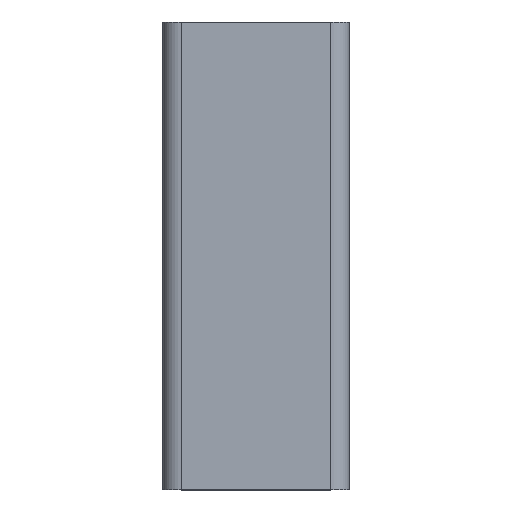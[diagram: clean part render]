
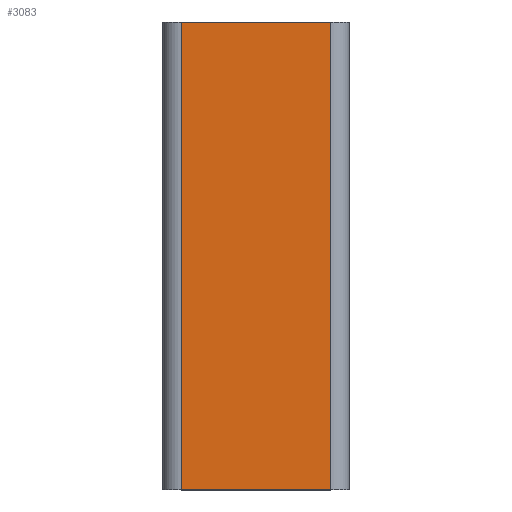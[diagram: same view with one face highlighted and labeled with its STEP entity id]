
A CAD part, top view. The second image highlights one B-rep face of the part: STEP entity #3083.
In plain terms, the highlighted planar face has unit normal (0, 0, 1).
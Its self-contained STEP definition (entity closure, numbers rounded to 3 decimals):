
#70 = AXIS2_PLACEMENT_3D ( 'NONE', #2069, #923, #4051 ) ;
#155 = LINE ( 'NONE', #592, #3243 ) ;
#399 = LINE ( 'NONE', #423, #2223 ) ;
#423 = CARTESIAN_POINT ( 'NONE',  ( -16., 50., 20. ) ) ;
#506 = CARTESIAN_POINT ( 'NONE',  ( 16., 50., 20. ) ) ;
#583 = VECTOR ( 'NONE', #3585, 1000. ) ;
#592 = CARTESIAN_POINT ( 'NONE',  ( -16., -50., 20. ) ) ;
#908 = LINE ( 'NONE', #506, #583 ) ;
#923 = DIRECTION ( 'NONE',  ( 0., 0., -1. ) ) ;
#973 = VERTEX_POINT ( 'NONE', #4738 ) ;
#987 = DIRECTION ( 'NONE',  ( 1., 0., 0. ) ) ;
#1080 = EDGE_CURVE ( 'NONE', #2732, #973, #155, .T. ) ;
#1161 = VECTOR ( 'NONE', #987, 1000. ) ;
#1870 = EDGE_LOOP ( 'NONE', ( #2186, #1905, #4703, #3402 ) ) ;
#1905 = ORIENTED_EDGE ( 'NONE', *, *, #2237, .F. ) ;
#2069 = CARTESIAN_POINT ( 'NONE',  ( -16., 50., 20. ) ) ;
#2186 = ORIENTED_EDGE ( 'NONE', *, *, #1080, .T. ) ;
#2223 = VECTOR ( 'NONE', #4015, 1000. ) ;
#2237 = EDGE_CURVE ( 'NONE', #3005, #973, #908, .T. ) ;
#2455 = PLANE ( 'NONE',  #70 ) ;
#2467 = VERTEX_POINT ( 'NONE', #3059 ) ;
#2732 = VERTEX_POINT ( 'NONE', #4063 ) ;
#2907 = EDGE_CURVE ( 'NONE', #2467, #3005, #4900, .T. ) ;
#2957 = CARTESIAN_POINT ( 'NONE',  ( -16., 50., 20. ) ) ;
#3005 = VERTEX_POINT ( 'NONE', #4223 ) ;
#3059 = CARTESIAN_POINT ( 'NONE',  ( -16., 50., 20. ) ) ;
#3083 = ADVANCED_FACE ( 'NONE', ( #4344 ), #2455, .F. ) ;
#3243 = VECTOR ( 'NONE', #3761, 1000. ) ;
#3402 = ORIENTED_EDGE ( 'NONE', *, *, #3488, .T. ) ;
#3488 = EDGE_CURVE ( 'NONE', #2467, #2732, #399, .T. ) ;
#3585 = DIRECTION ( 'NONE',  ( 0., -1., 0. ) ) ;
#3761 = DIRECTION ( 'NONE',  ( 1., 0., 0. ) ) ;
#4015 = DIRECTION ( 'NONE',  ( 0., -1., 0. ) ) ;
#4051 = DIRECTION ( 'NONE',  ( -1., 0., 0. ) ) ;
#4063 = CARTESIAN_POINT ( 'NONE',  ( -16., -50., 20. ) ) ;
#4223 = CARTESIAN_POINT ( 'NONE',  ( 16., 50., 20. ) ) ;
#4344 = FACE_OUTER_BOUND ( 'NONE', #1870, .T. ) ;
#4703 = ORIENTED_EDGE ( 'NONE', *, *, #2907, .F. ) ;
#4738 = CARTESIAN_POINT ( 'NONE',  ( 16., -50., 20. ) ) ;
#4900 = LINE ( 'NONE', #2957, #1161 ) ;
